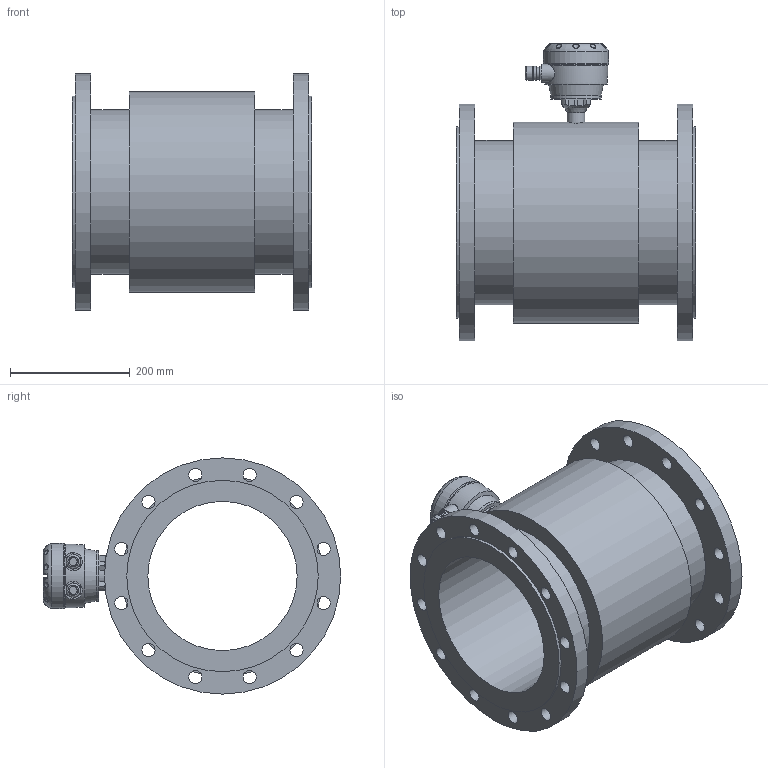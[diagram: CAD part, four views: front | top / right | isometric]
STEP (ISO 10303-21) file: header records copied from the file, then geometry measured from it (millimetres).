
FILE_DESCRIPTION (( 'STEP AP203' ), '1' );
FILE_NAME ('KROHNE_OPTIFLUX_2-4000W-WATERFLUX_3000F_DIN2632_DN250_PN10.STEP', '2011-04-26T11:22:53', ( '' ), ( '' ), 'SwSTEP 2.0', 'SolidWorks 2010', '' );
FILE_SCHEMA (( 'CONFIG_CONTROL_DESIGN' ));
Length unit declared in the file: millimetre
Products named in the file (1): KROHNE_OPTIFLUX_2-4000W-WATERFLUX_3000F_DIN2632_DN250_PN10
Bounding box: 400 x 496.99 x 395 mm (x, y, z)
Volume: 14380429.2 mm3; surface area: 1181213.5 mm2
Topology: 14 solids, 14 shells, 351 faces, 869 edges, 568 vertices
Faces by surface type: plane 158, cylinder 101, bspline 53, torus 18, sphere 13, cone 8
Full cylindrical faces by diameter (mm): 4 x4, 6.6 x8, 13 x2, 20 x2, 22 x24, 23.5 x4, 29 x1, 30 x2, 84 x2, 109 x1, 249.5 x1, 274.5 x2, 320 x2, 336 x1, 395 x2
Entity records: 14264 total; most frequent: CARTESIAN_POINT 6539, ORIENTED_EDGE 1494, DIRECTION 1461, EDGE_CURVE 747, AXIS2_PLACEMENT_3D 549, EDGE_LOOP 534, VERTEX_POINT 531, FACE_OUTER_BOUND 426
